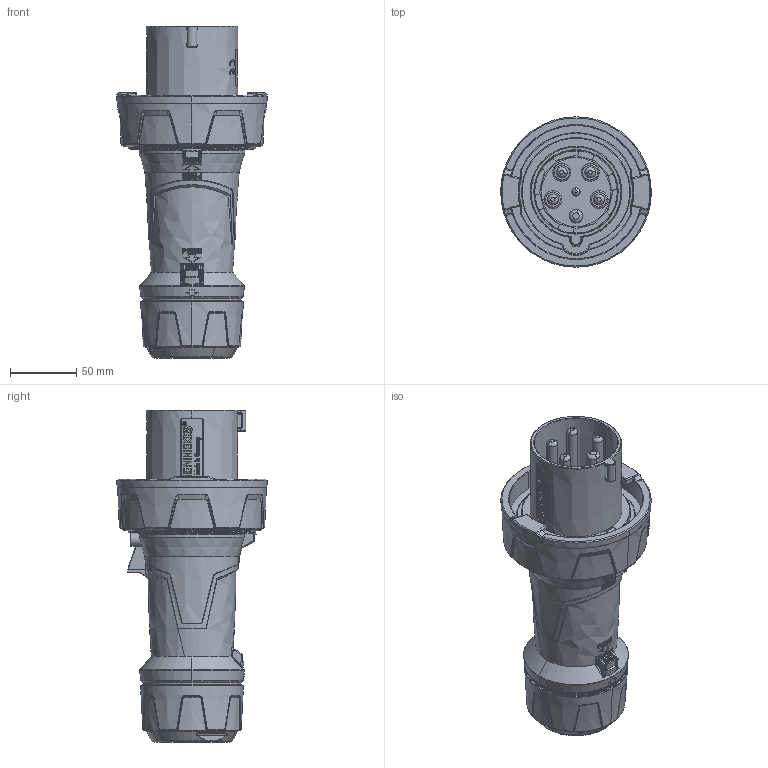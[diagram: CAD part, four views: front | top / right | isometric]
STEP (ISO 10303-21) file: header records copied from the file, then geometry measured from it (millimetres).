
FILE_DESCRIPTION((''),'2;1');
FILE_NAME('PR267_13212_FUER_ANLE_SW0002','2018-02-02T',('gisse'),('MENNEKES'),'PRO/ENGINEER BY PARAMETRIC TECHNOLOGY CORPORATION, 2015440','PRO/ENGINEER BY PARAMETRIC TECHNOLOGY CORPORATION, 2015440','');
FILE_SCHEMA(('AUTOMOTIVE_DESIGN { 1 0 10303 214 1 1 1 1 }'));
Products named in the file (1): PR267_13212_FUER_ANLE_SW0002
Bounding box: 113.22 x 113.26 x 249.9 mm (x, y, z)
Volume: 945756.9 mm3; surface area: 115661.4 mm2
Topology: 1 solids, 1 shells, 1889 faces, 4897 edges, 3092 vertices
Faces by surface type: plane 516, extrusion 453, bspline 443, cylinder 212, cone 144, torus 99, sphere 18, revolution 4
Entity records: 115362 total; most frequent: CARTESIAN_POINT 35936, ORIENTED_EDGE 9794, PRESENTATION_STYLE_ASSIGNMENT 7224, DIRECTION 5962, STYLED_ITEM 5355, CURVE_STYLE 5354, EDGE_CURVE 4897, FILL_AREA_STYLE_COLOUR 3739
